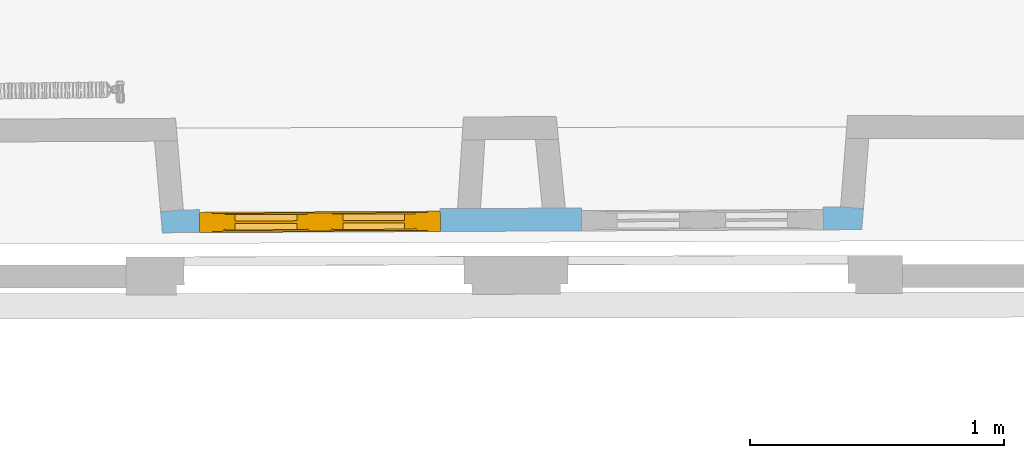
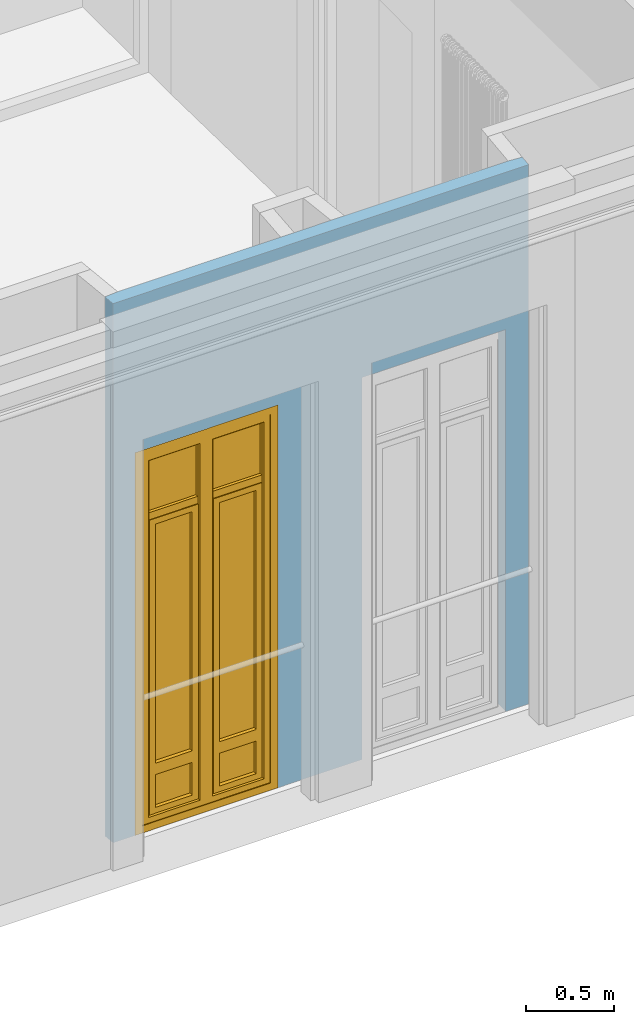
# One storey, part 37 of 66: 1 window, 2 openings, plus 1 element that does not belong to this part.
"""IFC2X3 building model written with IfcOpenShell, lengths in centimetres."""

from ifc_helpers import new_model, entity, si_unit, converted_unit, direction, frame, origin, origin_with_axes, place, context, subcontext, project, spatial, polyline, outline, extrude, faceted_brep, shape, source, transform, mapped, material, material_list, layer, layer_set, layer_usage, type_object, element, fill, save


model = new_model("IFC2X3")

# Units and contexts
model_context = context("Model", 3, precision=0.0001, world=origin(), true_north=direction((0.225632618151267, 0.974212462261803, 0.0)))
body_context = subcontext(model_context, "Body", "Model", "MODEL_VIEW")
footprint_context = subcontext(model_context, "FootPrint", "Model", "MODEL_VIEW")
profile_context = subcontext(model_context, "Profile", "Model", "MODEL_VIEW")
ifc_project = project(units=[si_unit("LENGTHUNIT", "METRE", prefix="CENTI"), si_unit("AREAUNIT", "SQUARE_METRE", prefix="CENTI"), si_unit("VOLUMEUNIT", "CUBIC_METRE", prefix="CENTI"), converted_unit("PLANEANGLEUNIT", "DEGREE", entity("IfcRatioMeasure", 0.0174532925), si_unit("PLANEANGLEUNIT", "RADIAN"), dimensions=[0, 0, 0, 0, 0, 0, 0])], contexts=[model_context])

# Site, building, storey
site_placement = place(None, origin_with_axes())
site = spatial("IfcSite", under=ifc_project, at=site_placement, Name="Default Site", CompositionType="ELEMENT")
building_placement = place(site_placement, origin_with_axes())
building = spatial("IfcBuilding", under=site, at=building_placement, Name="Default Building", CompositionType="ELEMENT")
storey_placement = place(building_placement, frame((0.0, 0.0, 477.795358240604), z_axis=(0.0, 0.0, 1.0), x_axis=(1.0, 0.0, 0.0)))
storey = spatial("IfcBuildingStorey", under=building, at=storey_placement, Name="Niveau 1", CompositionType="ELEMENT", Elevation=477.795358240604)

# Wall, openings, window
ifc_material_1 = material(Name="<aucun>")
ifc_layer = layer(ifc_material_1, 9.0)
ifc_layer_set = layer_set([ifc_layer], Name="default")
ifc_layer_usage = layer_usage(ifc_layer_set, "AXIS2", "POSITIVE", -4.5)
wall_type = type_object("IfcWallType", Name="default 90", PredefinedType="NOTDEFINED", material=ifc_layer_set)
wall_placement = place(storey_placement, frame((431.347521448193, -1021.27013066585, 0.0128503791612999), z_axis=(0.0, 0.0, 1.0), x_axis=(0.999989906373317, 0.00449301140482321, 0.0)))
wall = element("IfcWallStandardCase", 1, at=wall_placement, inside=storey, type_object=wall_type, material=ifc_layer_usage, Name="Enveloppe 775896", context=body_context, shape_type="SweptSolid", body=[
    extrude(outline(polyline([(145.200735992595, 4.49999999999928), (111.299680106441, 4.49999999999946), (4.14918639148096, 4.49999999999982), (-4.82124975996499, 3.77111369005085), (-4.14918639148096, -4.50000000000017), (111.29938252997, -4.49999866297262), (145.200735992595, -4.50000000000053), (270.736229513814, -4.5000000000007), (271.405605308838, 3.77428602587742), (262.434911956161, 4.49999999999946), (145.200735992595, 4.49999999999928)])), origin_with_axes(), (0.0, 0.0, 1.0), 376.102165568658),
])
opening_1_placement = place(wall_placement, frame((160.585489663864, -4.54747350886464e-13, 1.77635683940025e-13), z_axis=(0.0, 0.0, 1.0), x_axis=(1.0, -3.41220107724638e-15, 0.0)))
cartesian_point_1 = entity("IfcCartesianPoint", [0.0, 0.0, 266.5])
cartesian_point_2 = entity("IfcCartesianPoint", [95.0150468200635, 4.49999999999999])
element("IfcOpeningElement", 2, at=opening_1_placement, cuts=wall, Name="4294966417_11", ObjectType="Opening", shapes=[
    shape(body_context, "Body", "SweptSolid", [extrude(outline(polyline([(0.0, 266.5), (0.0, 8.88178419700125e-14), (95.0150468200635, 8.88178419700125e-14), (95.0150468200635, 266.5), (0.0, 266.5)])), frame((0.0, 14.5, 0.0), z_axis=(0.0, -1.0, 0.0), x_axis=(1.0, 0.0, 0.0)), (0.0, 0.0, 1.0), 29.0)]),
    shape(profile_context, "Profile", "GeometricCurveSet", [entity("IfcGeometricCurveSet", [entity("IfcPolyline", [cartesian_point_1, entity("IfcCartesianPoint", [0.0, 0.0, 8.88178419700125e-14]), entity("IfcCartesianPoint", [95.0150468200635, -1.77635683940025e-13, 8.88178419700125e-14]), entity("IfcCartesianPoint", [95.0150468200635, -1.77635683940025e-13, 266.5]), cartesian_point_1])])]),
    shape(footprint_context, "FootPrint", "GeometricCurveSet", [entity("IfcGeometricCurveSet", [entity("IfcPolyline", [cartesian_point_2, entity("IfcCartesianPoint", [0.0, 4.49999999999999]), entity("IfcCartesianPoint", [8.88178419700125e-14, -4.50000000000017]), entity("IfcCartesianPoint", [95.0150468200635, -4.50000000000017]), cartesian_point_2])])]),
])
opening_2_placement = place(wall_placement, frame((10.4769733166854, 0.0, 1.77635683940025e-13), z_axis=(0.0, 0.0, 1.0), x_axis=(1.0, -2.81111939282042e-15, 0.0)))
cartesian_point_3 = entity("IfcCartesianPoint", [0.0, 0.0, 267.0])
cartesian_point_4 = entity("IfcCartesianPoint", [94.6132473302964, 4.50000000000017])
opening_2 = element("IfcOpeningElement", 3, at=opening_2_placement, cuts=wall, Name="4294966416_11", ObjectType="Opening", shapes=[
    shape(body_context, "Body", "SweptSolid", [extrude(outline(polyline([(0.0, 267.0), (0.0, 8.88178419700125e-14), (94.6132473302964, 8.88178419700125e-14), (94.6132473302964, 267.0), (0.0, 267.0)])), frame((0.0, 14.5, 0.0), z_axis=(0.0, -1.0, 0.0), x_axis=(1.0, 0.0, 0.0)), (0.0, 0.0, 1.0), 29.0)]),
    shape(profile_context, "Profile", "GeometricCurveSet", [entity("IfcGeometricCurveSet", [entity("IfcPolyline", [cartesian_point_3, entity("IfcCartesianPoint", [0.0, 0.0, 8.88178419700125e-14]), entity("IfcCartesianPoint", [94.6132473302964, 1.77635683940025e-13, 8.88178419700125e-14]), entity("IfcCartesianPoint", [94.6132473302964, 1.77635683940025e-13, 267.0]), cartesian_point_3])])]),
    shape(footprint_context, "FootPrint", "GeometricCurveSet", [entity("IfcGeometricCurveSet", [entity("IfcPolyline", [cartesian_point_4, entity("IfcCartesianPoint", [0.0, 4.50000000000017]), entity("IfcCartesianPoint", [8.88178419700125e-14, -4.49999999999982]), entity("IfcCartesianPoint", [94.6132473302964, -4.49999999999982]), cartesian_point_4])])]),
])
ifc_material_2 = material(Name="Transparent")
ifc_material_3 = material(Name="Blanc trafic")
ifc_material_4 = material(Name="Aluminium satiné")
ifc_material_list = material_list([ifc_material_2, ifc_material_3, ifc_material_4])
window_style = type_object("IfcWindowStyle", Name="FN[R] 2VB[2V] MM", ConstructionType="NOTDEFINED", OperationType="NOTDEFINED", ParameterTakesPrecedence=False, Sizeable=False, material=ifc_material_list)
shared_shape = source(origin_with_axes(), body_context, "Body", "Brep", [
    faceted_brep([(-42.3066228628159, 261.999988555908, -3.99999991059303), (-42.3066228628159, 261.999988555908, 3.99999991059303), (-42.3066228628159, 5.00000007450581, 3.99999991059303), (-42.3066228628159, 5.00000007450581, -3.99999991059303), (-47.3066240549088, 267.000007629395, 3.99999991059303), (-47.3066240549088, -4.44089209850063e-14, 3.99999991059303), (-47.3066240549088, 267.000007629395, -3.99999991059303), (-47.3066240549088, -4.44089209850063e-14, -3.99999991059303), (42.3066228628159, 5.0000000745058, 3.99999991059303), (42.3066228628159, 5.0000000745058, -3.99999991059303), (47.3066240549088, -4.44089209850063e-14, 3.99999991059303), (42.3066228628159, 5.00000007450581, 3.99999991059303), (47.3066240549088, -4.44089209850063e-14, -3.99999991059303), (42.3066228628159, 5.00000007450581, -3.99999991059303), (42.3066228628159, 261.999988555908, 3.99999991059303), (42.3066228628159, 261.999988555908, -3.99999991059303), (47.3066240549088, 267.000007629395, 3.99999991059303), (47.3066240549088, 267.000007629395, -3.99999991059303)], [[[0, 1, 2, 3]], [[1, 4, 5, 2]], [[4, 6, 7, 5]], [[6, 0, 3, 7]], [[3, 2, 8, 9]], [[2, 5, 10, 11]], [[5, 7, 12, 10]], [[7, 3, 13, 12]], [[13, 11, 14, 15]], [[11, 10, 16, 14]], [[10, 12, 17, 16]], [[12, 13, 15, 17]], [[15, 14, 1, 0]], [[14, 16, 4, 1]], [[16, 17, 6, 4]], [[17, 15, 0, 6]]]),
    faceted_brep([(-38.3066236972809, 257.999992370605, -3.50000001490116), (-37.3066241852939, 256.99999332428, -2.50000050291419), (-37.3066241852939, 10.0000001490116, -2.50000050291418), (-38.3066236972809, 9.00000035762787, -3.50000001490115), (-37.3066246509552, 256.99999332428, -2.5000000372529), (-37.3066246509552, 256.99999332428, 3.50000001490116), (-37.3066246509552, 10.0000001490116, 3.50000001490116), (-37.3066246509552, 10.0000001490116, -2.5000000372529), (-42.3066228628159, 261.999988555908, 3.50000001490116), (-42.3066228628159, 5.00000007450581, 3.50000001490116), (-42.3066228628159, 261.999988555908, -3.50000001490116), (-42.3066228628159, 5.00000007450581, -3.50000001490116), (-38.3066236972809, 9.00000035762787, -3.50000001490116), (-37.3066246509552, 10.0000002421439, -2.50000013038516), (-5.00000007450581, 10.0000002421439, -2.50000013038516), (-3.99999991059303, 9.00000035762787, -3.50000001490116), (-5.00000007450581, 10.0000001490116, 3.50000001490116), (-5.00000007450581, 10.0000001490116, -2.5000000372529), (-4.44089209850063e-14, 5.00000007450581, 3.50000001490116), (-4.44089209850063e-14, 5.00000007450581, -3.50000001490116), (-4.99999998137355, 10.0000001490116, -2.49999994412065), (-4.99999998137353, 256.99999332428, -2.49999994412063), (-3.99999991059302, 257.999992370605, -3.50000001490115), (-5.00000007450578, 256.99999332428, 3.50000001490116), (-5.00000007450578, 256.99999332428, -2.5000000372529), (-2.77555756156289e-14, 261.999988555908, 3.50000001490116), (-5.00000007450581, 256.99999332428, 3.50000001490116), (-2.77555770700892e-14, 261.999988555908, -3.50000001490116), (-2.77555770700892e-14, 261.999988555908, 3.50000001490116), (-3.99999991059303, 257.999992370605, -3.50000001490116), (-2.77555756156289e-14, 261.999988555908, -3.50000001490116), (-5.00000007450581, 256.999992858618, -2.50000050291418), (-37.3066246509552, 256.999992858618, -2.50000050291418), (-5.00000007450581, 256.99999332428, -2.5000000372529)], [[[0, 1, 2, 3]], [[4, 5, 6, 7]], [[5, 8, 9, 6]], [[8, 10, 11, 9]], [[10, 0, 12, 11]], [[12, 13, 14, 15]], [[7, 6, 16, 17]], [[6, 9, 18, 16]], [[9, 11, 19, 18]], [[11, 12, 15, 19]], [[15, 20, 21, 22]], [[17, 16, 23, 24]], [[16, 18, 25, 26]], [[18, 19, 27, 28]], [[19, 15, 29, 30]], [[29, 31, 32, 0]], [[33, 26, 5, 4]], [[26, 25, 8, 5]], [[25, 30, 10, 8]], [[30, 29, 0, 10]]]),
    faceted_brep([(-5.00000007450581, 256.99999332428, -0.499999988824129), (-5.00000007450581, 220.700001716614, -0.499999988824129), (-37.3066246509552, 220.700001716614, -0.499999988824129), (-37.3066246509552, 256.99999332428, -0.499999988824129), (-37.3066246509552, 256.99999332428, 0.499999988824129), (-37.3066246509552, 220.700001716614, 0.499999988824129), (-5.00000007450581, 220.700001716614, 0.499999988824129), (-5.00000007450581, 256.99999332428, 0.499999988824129)], [[[0, 1, 2, 3]], [[4, 5, 6, 7]], [[3, 2, 5, 4]], [[2, 1, 6, 5]], [[1, 0, 7, 6]], [[0, 3, 4, 7]]]),
    faceted_brep([(-5.00000007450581, 215.700006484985, 2.5000000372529), (-5.00000007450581, 215.700006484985, -2.5000000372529), (-5.00000007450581, 220.700001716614, -2.5000000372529), (-5.00000007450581, 220.700001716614, 2.5000000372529), (-37.3066246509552, 220.700001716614, 2.5000000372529), (-37.3066246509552, 220.700001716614, -2.5000000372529), (-37.3066246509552, 215.700006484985, -2.5000000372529), (-37.3066246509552, 215.700006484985, 2.5000000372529)], [[[0, 1, 2, 3]], [[4, 5, 6, 7]], [[3, 2, 5, 4]], [[2, 1, 6, 5]], [[1, 0, 7, 6]], [[0, 3, 4, 7]]]),
    faceted_brep([(-33.306622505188, 211.700010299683, -2.99999993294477), (-33.306622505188, 211.700010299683, 2.99999993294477), (-33.306622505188, 44.854998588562, 2.99999993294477), (-33.306622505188, 44.854998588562, -2.99999993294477), (-37.3066246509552, 215.700006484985, 2.99999993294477), (-37.3066246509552, 40.854999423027, 2.99999993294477), (-37.3066246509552, 215.700006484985, -2.99999993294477), (-37.3066246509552, 40.854999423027, -2.99999993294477), (-9.00000035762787, 44.854998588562, 2.99999993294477), (-9.00000035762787, 44.854998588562, -2.99999993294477), (-5.00000007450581, 40.854999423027, 2.99999993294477), (-5.00000007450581, 40.854999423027, -2.99999993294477), (-9.00000035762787, 211.700010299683, 2.99999993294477), (-9.00000035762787, 211.700010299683, -2.99999993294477), (-5.00000007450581, 215.700006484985, 2.99999993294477), (-5.00000007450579, 215.700006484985, -2.99999993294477), (-5.00000007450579, 215.700006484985, 2.99999993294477), (-5.00000007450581, 215.700006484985, -2.99999993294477)], [[[0, 1, 2, 3]], [[1, 4, 5, 2]], [[4, 6, 7, 5]], [[6, 0, 3, 7]], [[3, 2, 8, 9]], [[2, 5, 10, 8]], [[5, 7, 11, 10]], [[7, 3, 9, 11]], [[9, 8, 12, 13]], [[8, 10, 14, 12]], [[10, 11, 15, 16]], [[11, 9, 13, 17]], [[13, 12, 1, 0]], [[12, 14, 4, 1]], [[14, 17, 6, 4]], [[17, 13, 0, 6]]]),
    faceted_brep([(-9.00000035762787, 211.700010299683, -0.499999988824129), (-9.00000035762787, 44.854998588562, -0.499999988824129), (-33.306622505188, 44.854998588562, -0.499999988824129), (-33.306622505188, 211.700010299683, -0.499999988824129), (-33.306622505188, 211.700010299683, 0.499999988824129), (-33.306622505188, 44.854998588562, 0.499999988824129), (-9.00000035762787, 44.854998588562, 0.499999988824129), (-9.00000035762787, 211.700010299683, 0.499999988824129), (-9.00000035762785, 211.700010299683, -0.499999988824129), (-9.00000035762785, 211.700010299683, 0.499999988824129)], [[[0, 1, 2, 3]], [[4, 5, 6, 7]], [[3, 2, 5, 4]], [[2, 1, 6, 5]], [[1, 8, 9, 6]], [[0, 3, 4, 7]]]),
    faceted_brep([(-33.306622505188, 36.8550002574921, -2.99999993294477), (-33.306622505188, 36.8550002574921, 2.99999993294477), (-33.306622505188, 14.0000000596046, 2.99999993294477), (-33.306622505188, 14.0000000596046, -2.99999993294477), (-37.3066246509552, 40.854999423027, 2.99999993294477), (-37.3066246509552, 10.0000001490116, 2.99999993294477), (-37.3066246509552, 40.854999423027, -2.99999993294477), (-37.3066246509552, 10.0000001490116, -2.99999993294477), (-9.00000035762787, 14.0000000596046, 2.99999993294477), (-9.00000035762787, 14.0000000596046, -2.99999993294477), (-5.00000007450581, 10.0000001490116, 2.99999993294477), (-5.00000007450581, 10.0000001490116, -2.99999993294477), (-9.00000035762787, 36.8550002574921, 2.99999993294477), (-9.00000035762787, 36.8550002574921, -2.99999993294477), (-5.00000007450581, 40.854999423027, 2.99999993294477), (-5.00000007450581, 40.854999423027, -2.99999993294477)], [[[0, 1, 2, 3]], [[1, 4, 5, 2]], [[4, 6, 7, 5]], [[6, 0, 3, 7]], [[3, 2, 8, 9]], [[2, 5, 10, 8]], [[5, 7, 11, 10]], [[7, 3, 9, 11]], [[9, 8, 12, 13]], [[8, 10, 14, 12]], [[10, 11, 15, 14]], [[11, 9, 13, 15]], [[13, 12, 1, 0]], [[12, 14, 4, 1]], [[14, 15, 6, 4]], [[15, 13, 0, 6]]]),
    faceted_brep([(-9.00000035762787, 36.8550002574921, -0.499999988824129), (-9.00000035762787, 14.0000000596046, -0.499999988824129), (-33.306622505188, 14.0000000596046, -0.499999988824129), (-33.306622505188, 36.8550002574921, -0.499999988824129), (-33.306622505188, 36.8550002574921, 0.499999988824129), (-33.306622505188, 14.0000000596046, 0.499999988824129), (-9.00000035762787, 14.0000000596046, 0.499999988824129), (-9.00000035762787, 36.8550002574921, 0.499999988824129)], [[[0, 1, 2, 3]], [[4, 5, 6, 7]], [[3, 2, 5, 4]], [[2, 1, 6, 5]], [[1, 0, 7, 6]], [[0, 3, 4, 7]]]),
    faceted_brep([(3.99999991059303, 257.999992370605, -3.50000001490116), (4.99999998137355, 256.99999332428, -2.49999994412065), (4.99999998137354, 10.0000001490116, -2.49999994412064), (3.99999991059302, 9.00000035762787, -3.50000001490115), (5.00000007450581, 256.99999332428, -2.5000000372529), (5.00000007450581, 256.99999332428, 3.50000001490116), (5.00000007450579, 10.0000001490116, 3.50000001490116), (5.00000007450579, 10.0000001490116, -2.5000000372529), (-2.77555756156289e-14, 261.999988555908, 3.50000001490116), (-4.44089209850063e-14, 5.00000007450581, 3.50000001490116), (5.00000007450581, 10.0000001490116, 3.50000001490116), (-2.77555756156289e-14, 261.999988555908, -3.50000001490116), (-4.4408919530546e-14, 5.00000007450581, -3.50000001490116), (-4.4408919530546e-14, 5.00000007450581, 3.50000001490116), (3.99999991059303, 9.00000035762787, -3.50000001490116), (-4.44089209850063e-14, 5.00000007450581, -3.50000001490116), (5.00000007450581, 10.0000002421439, -2.50000013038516), (37.3066246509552, 10.0000002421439, -2.50000013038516), (38.3066236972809, 9.00000035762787, -3.50000001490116), (5.00000007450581, 10.0000001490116, -2.5000000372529), (37.3066246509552, 10.0000001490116, 3.50000001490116), (37.3066246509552, 10.0000001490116, -2.5000000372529), (42.3066228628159, 5.00000007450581, 3.50000001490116), (42.3066228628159, 5.00000007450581, -3.50000001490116), (37.3066241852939, 10.0000001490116, -2.50000050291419), (37.3066241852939, 256.99999332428, -2.50000050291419), (38.3066236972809, 257.999992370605, -3.50000001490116), (37.3066246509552, 256.99999332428, 3.50000001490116), (37.3066246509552, 256.99999332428, -2.5000000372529), (42.3066228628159, 261.999988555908, 3.50000001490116), (42.3066228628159, 261.999988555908, -3.50000001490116), (37.3066246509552, 256.999992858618, -2.50000050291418), (5.00000007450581, 256.999992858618, -2.50000050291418)], [[[0, 1, 2, 3]], [[4, 5, 6, 7]], [[5, 8, 9, 10]], [[8, 11, 12, 13]], [[11, 0, 14, 15]], [[14, 16, 17, 18]], [[19, 10, 20, 21]], [[10, 9, 22, 20]], [[9, 15, 23, 22]], [[15, 14, 18, 23]], [[18, 24, 25, 26]], [[21, 20, 27, 28]], [[20, 22, 29, 27]], [[22, 23, 30, 29]], [[23, 18, 26, 30]], [[26, 31, 32, 0]], [[28, 27, 5, 4]], [[27, 29, 8, 5]], [[29, 30, 11, 8]], [[30, 26, 0, 11]]]),
    faceted_brep([(4.50000017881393, 135.500001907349, 3.50000001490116), (4.50000017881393, 131.500005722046, 3.50000001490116), (0.499999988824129, 131.500005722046, 3.50000001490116), (0.499999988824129, 135.500001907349, 3.50000001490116), (0.499999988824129, 135.500001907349, 4.30000014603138), (0.499999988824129, 131.500005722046, 4.30000014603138), (4.50000017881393, 131.500005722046, 4.30000014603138), (4.50000017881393, 135.500001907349, 4.30000014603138)], [[[0, 1, 2, 3]], [[4, 5, 6, 7]], [[3, 2, 5, 4]], [[2, 1, 6, 5]], [[1, 0, 7, 6]], [[0, 3, 4, 7]]]),
    faceted_brep([(3.24999988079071, 134.00000333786, 4.30000014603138), (3.24999988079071, 133.000004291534, 4.30000014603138), (1.75000000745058, 133.000004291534, 4.30000014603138), (1.75000000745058, 134.00000333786, 4.30000014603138), (1.75000000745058, 134.00000333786, 8.29999968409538), (1.75000000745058, 133.000003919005, 7.30000026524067), (3.24999988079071, 133.000003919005, 7.30000026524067), (3.24999988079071, 134.00000333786, 8.29999968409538), (1.75000000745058, 133.000004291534, 7.29999989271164), (3.24999988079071, 133.000004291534, 7.29999989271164)], [[[0, 1, 2, 3]], [[4, 5, 6, 7]], [[3, 2, 8, 4]], [[2, 1, 9, 8]], [[1, 0, 7, 9]], [[0, 3, 4, 7]]]),
    faceted_brep([(3.24999988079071, 134.00000333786, 8.29999968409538), (3.24999988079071, 133.000003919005, 7.30000026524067), (1.75000000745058, 133.000003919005, 7.30000026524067), (1.75000000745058, 134.00000333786, 8.29999968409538), (1.75000000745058, 121.000003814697, 8.29999968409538), (1.75000000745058, 121.000003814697, 7.29999989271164), (3.24999988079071, 121.000003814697, 7.29999989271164), (3.24999988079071, 121.000003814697, 8.29999968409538), (1.75000000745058, 133.000004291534, 7.29999989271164), (3.24999988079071, 133.000004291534, 7.29999989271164)], [[[0, 1, 2, 3]], [[4, 5, 6, 7]], [[3, 8, 5, 4]], [[8, 9, 6, 5]], [[9, 0, 7, 6]], [[0, 3, 4, 7]]]),
    faceted_brep([(37.3066246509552, 256.99999332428, -0.499999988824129), (37.3066246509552, 220.700001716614, -0.499999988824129), (5.00000007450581, 220.700001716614, -0.499999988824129), (5.00000007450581, 256.99999332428, -0.499999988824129), (5.00000007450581, 256.99999332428, 0.499999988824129), (5.00000007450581, 220.700001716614, 0.499999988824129), (37.3066246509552, 220.700001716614, 0.499999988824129), (37.3066246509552, 256.99999332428, 0.499999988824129)], [[[0, 1, 2, 3]], [[4, 5, 6, 7]], [[3, 2, 5, 4]], [[2, 1, 6, 5]], [[1, 0, 7, 6]], [[0, 3, 4, 7]]]),
    faceted_brep([(37.3066246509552, 215.700006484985, 2.5000000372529), (37.3066246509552, 215.700006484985, -2.5000000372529), (37.3066246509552, 220.700001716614, -2.5000000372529), (37.3066246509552, 220.700001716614, 2.5000000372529), (5.00000007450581, 220.700001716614, 2.5000000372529), (5.00000007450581, 220.700001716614, -2.5000000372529), (5.00000007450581, 215.700006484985, -2.5000000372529), (5.00000007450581, 215.700006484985, 2.5000000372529)], [[[0, 1, 2, 3]], [[4, 5, 6, 7]], [[3, 2, 5, 4]], [[2, 1, 6, 5]], [[1, 0, 7, 6]], [[0, 3, 4, 7]]]),
    faceted_brep([(9.00000035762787, 211.700010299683, -2.99999993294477), (9.00000035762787, 211.700010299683, 2.99999993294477), (9.00000035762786, 44.854998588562, 2.99999993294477), (9.00000035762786, 44.854998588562, -2.99999993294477), (5.00000007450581, 215.700006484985, 2.99999993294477), (5.00000007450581, 40.854999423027, 2.99999993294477), (9.00000035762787, 44.854998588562, 2.99999993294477), (5.00000007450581, 215.700006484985, -2.99999993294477), (5.0000000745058, 40.854999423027, -2.99999993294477), (5.0000000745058, 40.854999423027, 2.99999993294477), (9.00000035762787, 44.854998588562, -2.99999993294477), (5.00000007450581, 40.854999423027, -2.99999993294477), (33.306622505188, 44.854998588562, 2.99999993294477), (33.306622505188, 44.854998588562, -2.99999993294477), (37.3066246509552, 40.854999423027, 2.99999993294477), (37.3066246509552, 40.854999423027, -2.99999993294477), (33.306622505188, 211.700010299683, 2.99999993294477), (33.306622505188, 211.700010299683, -2.99999993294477), (37.3066246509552, 215.700006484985, 2.99999993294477), (37.3066246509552, 215.700006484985, -2.99999993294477)], [[[0, 1, 2, 3]], [[1, 4, 5, 6]], [[4, 7, 8, 9]], [[7, 0, 10, 11]], [[10, 6, 12, 13]], [[6, 5, 14, 12]], [[5, 11, 15, 14]], [[11, 10, 13, 15]], [[13, 12, 16, 17]], [[12, 14, 18, 16]], [[14, 15, 19, 18]], [[15, 13, 17, 19]], [[17, 16, 1, 0]], [[16, 18, 4, 1]], [[18, 19, 7, 4]], [[19, 17, 0, 7]]]),
    faceted_brep([(33.306622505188, 211.700010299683, -0.499999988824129), (33.306622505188, 44.854998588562, -0.499999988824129), (9.00000035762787, 44.854998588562, -0.499999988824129), (9.00000035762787, 211.700010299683, -0.499999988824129), (9.00000035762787, 211.700010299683, 0.499999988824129), (9.00000035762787, 44.854998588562, 0.499999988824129), (33.306622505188, 44.854998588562, 0.499999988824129), (33.306622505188, 211.700010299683, 0.499999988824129), (9.00000035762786, 44.854998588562, -0.499999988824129), (9.00000035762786, 44.854998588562, 0.499999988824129)], [[[0, 1, 2, 3]], [[4, 5, 6, 7]], [[3, 8, 9, 4]], [[2, 1, 6, 5]], [[1, 0, 7, 6]], [[0, 3, 4, 7]]]),
    faceted_brep([(9.00000035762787, 36.8550002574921, -2.99999993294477), (9.00000035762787, 36.8550002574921, 2.99999993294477), (9.00000035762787, 14.0000000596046, 2.99999993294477), (9.00000035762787, 14.0000000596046, -2.99999993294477), (5.00000007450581, 40.854999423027, 2.99999993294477), (5.00000007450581, 10.0000001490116, 2.99999993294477), (5.00000007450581, 40.854999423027, -2.99999993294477), (5.0000000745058, 10.0000001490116, -2.99999993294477), (5.0000000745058, 10.0000001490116, 2.99999993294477), (5.00000007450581, 10.0000001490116, -2.99999993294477), (33.306622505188, 14.0000000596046, 2.99999993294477), (33.306622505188, 14.0000000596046, -2.99999993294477), (37.3066246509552, 10.0000001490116, 2.99999993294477), (37.3066246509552, 10.0000001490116, -2.99999993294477), (33.306622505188, 36.8550002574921, 2.99999993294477), (33.306622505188, 36.8550002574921, -2.99999993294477), (37.3066246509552, 40.854999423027, 2.99999993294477), (37.3066246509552, 40.854999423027, -2.99999993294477)], [[[0, 1, 2, 3]], [[1, 4, 5, 2]], [[4, 6, 7, 8]], [[6, 0, 3, 9]], [[3, 2, 10, 11]], [[2, 5, 12, 10]], [[5, 9, 13, 12]], [[9, 3, 11, 13]], [[11, 10, 14, 15]], [[10, 12, 16, 14]], [[12, 13, 17, 16]], [[13, 11, 15, 17]], [[15, 14, 1, 0]], [[14, 16, 4, 1]], [[16, 17, 6, 4]], [[17, 15, 0, 6]]]),
    faceted_brep([(33.306622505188, 36.8550002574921, -0.499999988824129), (33.306622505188, 14.0000000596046, -0.499999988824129), (9.00000035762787, 14.0000000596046, -0.499999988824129), (9.00000035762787, 36.8550002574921, -0.499999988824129), (9.00000035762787, 36.8550002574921, 0.499999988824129), (9.00000035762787, 14.0000000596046, 0.499999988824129), (33.306622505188, 14.0000000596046, 0.499999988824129), (33.306622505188, 36.8550002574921, 0.499999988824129)], [[[0, 1, 2, 3]], [[4, 5, 6, 7]], [[3, 2, 5, 4]], [[2, 1, 6, 5]], [[1, 0, 7, 6]], [[0, 3, 4, 7]]]),
])
window_placement = place(opening_2_placement, frame((0.0, -4.50000000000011, 0.0), z_axis=(0.0, 0.0, 1.0), x_axis=(1.0, 0.0, 0.0)))
window = element("IfcWindow", 4, at=window_placement, inside=storey, type_object=window_style, material=ifc_material_list, Name="Fenêtre 121285", OverallHeight=267.0, OverallWidth=94.6132473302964, context=body_context, shape_type="MappedRepresentation", body=[
    mapped(shared_shape, transform((47.306623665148, 3.99999999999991, -8.88178419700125e-14), x_axis=(-1.0, 0.0, 0.0), y_axis=(0.0, 0.0, 1.0), z_axis=(0.0, 1.0, 0.0), scale=1.0, scale2=1.0, scale3=1.0, uniform=False)),
])
fill(opening_2, window)

save(model, "model.ifc")
